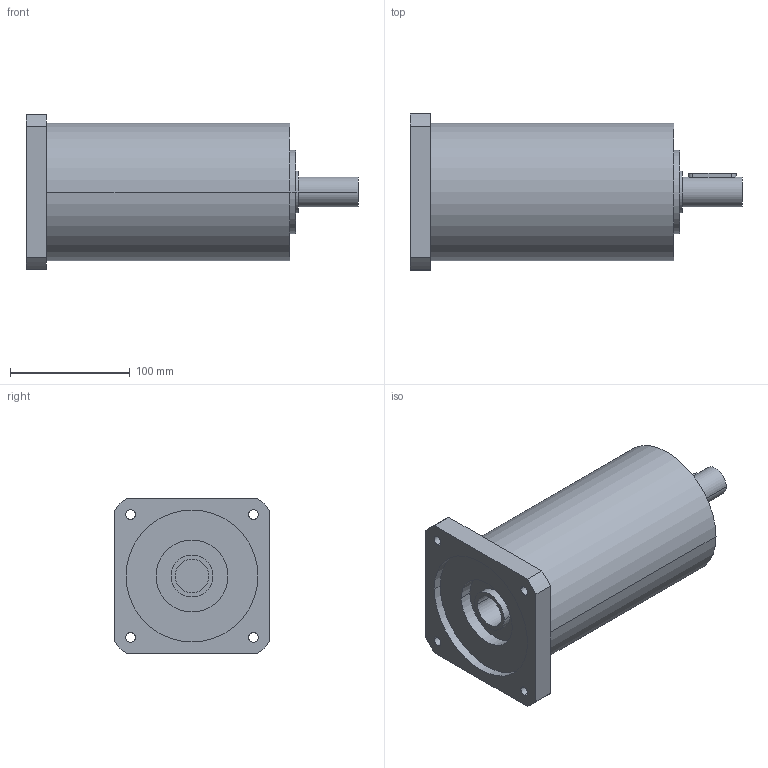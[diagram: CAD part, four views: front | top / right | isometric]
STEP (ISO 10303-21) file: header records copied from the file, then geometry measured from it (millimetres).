
FILE_DESCRIPTION(('CoCreate Modeling STEP Export'),'2;1');
FILE_NAME('GPR125_ig-48-64-80-100-140-196-245-343_25_B14_28_P12.stp','2014-08-26T14:22:52',(''),(''),'CoCreate Modeling STEP processor for AP214 (Solid Model)','CoCreate Modeling 16.00C 25-Feb-2009 (C) Parametric Technology GmbH','');
FILE_SCHEMA(('AUTOMOTIVE_DESIGN { 1 0 10303 214 1 1 1 1 }'));
Length unit declared in the file: millimetre
Products named in the file (2): GPR125_ig-48-64-80-100-140-196-245-343_25_B14_28_P12
Assembly tree (1 placements, depth 2):
  GPR125_ig-48-64-80-100-140-196-245-343_25_B14_28_P12
    GPR125_ig-48-64-80-100-140-196-245-343_25_B14_28_P12
Bounding box: 277 x 130 x 130 mm (x, y, z)
Volume: 2308023.4 mm3; surface area: 134842.7 mm2
Topology: 1 solids, 1 shells, 65 faces, 180 edges, 128 vertices
Faces by surface type: cylinder 40, plane 21, cone 4
Entity records: 1853 total; most frequent: ORIENTED_EDGE 356, CARTESIAN_POINT 351, DIRECTION 248, EDGE_CURVE 178, VERTEX_POINT 128, AXIS2_PLACEMENT_3D 93, EDGE_LOOP 86, FACE_OUTER_BOUND 65
